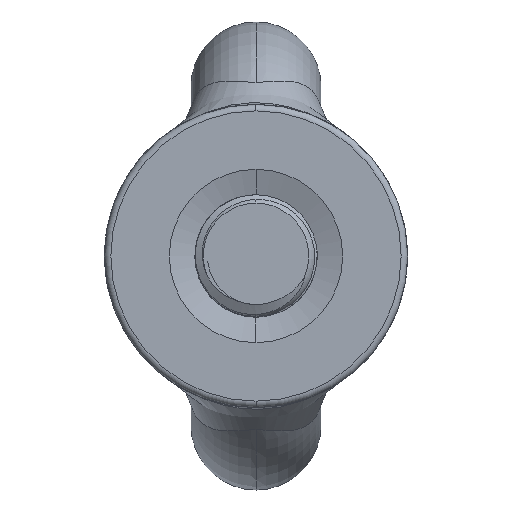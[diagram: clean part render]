
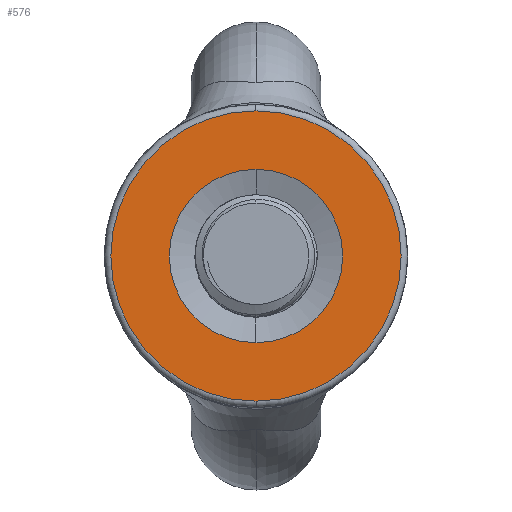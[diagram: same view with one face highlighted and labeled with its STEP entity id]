
A CAD part, left-side view. The second image highlights one B-rep face of the part: STEP entity #576.
In plain terms, the highlighted planar face has unit normal (-1, 0, 0).
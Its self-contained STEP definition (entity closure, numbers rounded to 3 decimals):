
#450 = EDGE_CURVE ( 'NONE', #5579, #5574, #5631, .T. ) ;
#451 = EDGE_CURVE ( 'NONE', #5528, #5582, #5628, .T. ) ;
#469 = AXIS2_PLACEMENT_3D ( 'NONE', #3180, #3205, #3134 ) ;
#470 = AXIS2_PLACEMENT_3D ( 'NONE', #3133, #3202, #3097 ) ;
#482 = AXIS2_PLACEMENT_3D ( 'NONE', #3692, #3696, #3697 ) ;
#511 = AXIS2_PLACEMENT_3D ( 'NONE', #4417, #4418, #4419 ) ;
#528 = AXIS2_PLACEMENT_3D ( 'NONE', #4818, #4819, #4820 ) ;
#576 = ADVANCED_FACE ( 'NONE', ( #5649, #5643 ), #3695, .F. ) ;
#1842 = CARTESIAN_POINT ( 'NONE',  ( 0., 0., 10. ) ) ;
#1884 = CARTESIAN_POINT ( 'NONE',  ( 0., 0., 16.75 ) ) ;
#1889 = CARTESIAN_POINT ( 'NONE',  ( 0., 0., -16.75 ) ) ;
#1892 = CARTESIAN_POINT ( 'NONE',  ( 0., 0., -10. ) ) ;
#3097 = DIRECTION ( 'NONE',  ( 0., 0., 1. ) ) ;
#3133 = CARTESIAN_POINT ( 'NONE',  ( 0., 0., 0. ) ) ;
#3134 = DIRECTION ( 'NONE',  ( 0., 0., -1. ) ) ;
#3180 = CARTESIAN_POINT ( 'NONE',  ( 0., 0., 0. ) ) ;
#3202 = DIRECTION ( 'NONE',  ( -1., 0., 0. ) ) ;
#3205 = DIRECTION ( 'NONE',  ( -1., 0., 0. ) ) ;
#3226 = EDGE_CURVE ( 'NONE', #5574, #5579, #5702, .T. ) ;
#3262 = EDGE_CURVE ( 'NONE', #5582, #5528, #5730, .T. ) ;
#3692 = CARTESIAN_POINT ( 'NONE',  ( 0., 0., -10. ) ) ;
#3695 = PLANE ( 'NONE',  #482 ) ;
#3696 = DIRECTION ( 'NONE',  ( 1., 0., 0. ) ) ;
#3697 = DIRECTION ( 'NONE',  ( 0., 0., -1. ) ) ;
#4417 = CARTESIAN_POINT ( 'NONE',  ( 0., 0., 0. ) ) ;
#4418 = DIRECTION ( 'NONE',  ( -1., 0., 0. ) ) ;
#4419 = DIRECTION ( 'NONE',  ( 0., 0., -1. ) ) ;
#4818 = CARTESIAN_POINT ( 'NONE',  ( 0., 0., 0. ) ) ;
#4819 = DIRECTION ( 'NONE',  ( -1., 0., 0. ) ) ;
#4820 = DIRECTION ( 'NONE',  ( 0., 0., 1. ) ) ;
#5361 = ORIENTED_EDGE ( 'NONE', *, *, #450, .T. ) ;
#5362 = ORIENTED_EDGE ( 'NONE', *, *, #3226, .T. ) ;
#5363 = ORIENTED_EDGE ( 'NONE', *, *, #451, .F. ) ;
#5364 = ORIENTED_EDGE ( 'NONE', *, *, #3262, .F. ) ;
#5496 = EDGE_LOOP ( 'NONE', ( #5361, #5362 ) ) ;
#5510 = EDGE_LOOP ( 'NONE', ( #5363, #5364 ) ) ;
#5528 = VERTEX_POINT ( 'NONE', #1842 ) ;
#5574 = VERTEX_POINT ( 'NONE', #1884 ) ;
#5579 = VERTEX_POINT ( 'NONE', #1889 ) ;
#5582 = VERTEX_POINT ( 'NONE', #1892 ) ;
#5628 = CIRCLE ( 'NONE', #470, 10. ) ;
#5631 = CIRCLE ( 'NONE', #469, 16.75 ) ;
#5643 = FACE_BOUND ( 'NONE', #5510, .T. ) ;
#5649 = FACE_OUTER_BOUND ( 'NONE', #5496, .T. ) ;
#5702 = CIRCLE ( 'NONE', #511, 16.75 ) ;
#5730 = CIRCLE ( 'NONE', #528, 10. ) ;
